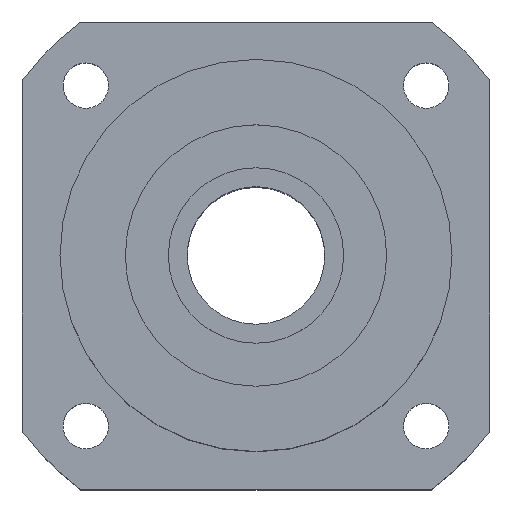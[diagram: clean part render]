
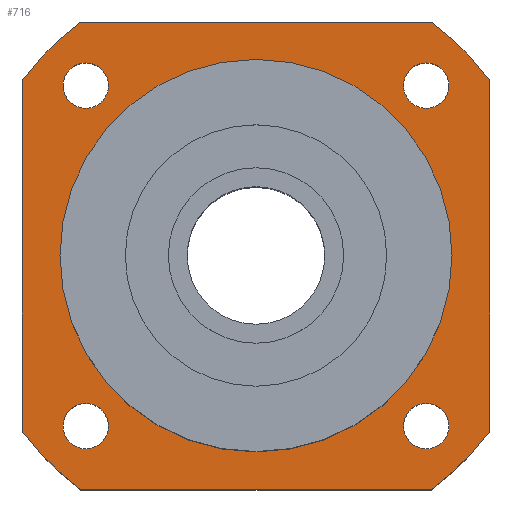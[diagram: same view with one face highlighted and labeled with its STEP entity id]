
A CAD part, top view. The second image highlights one B-rep face of the part: STEP entity #716.
In plain terms, the highlighted planar face has unit normal (0, 0, 1).
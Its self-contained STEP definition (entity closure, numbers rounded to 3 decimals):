
#35=LINE($,#1340,#67);
#38=LINE($,#1348,#70);
#41=LINE($,#1356,#73);
#44=LINE($,#1363,#76);
#67=VECTOR($,#1000,51.);
#70=VECTOR($,#1009,51.);
#73=VECTOR($,#1018,51.);
#76=VECTOR($,#1027,51.);
#190=FACE_BOUND($,#278,.T.);
#191=FACE_BOUND($,#279,.T.);
#192=FACE_BOUND($,#280,.T.);
#193=FACE_BOUND($,#281,.T.);
#194=FACE_BOUND($,#282,.T.);
#195=FACE_BOUND($,#283,.T.);
#278=EDGE_LOOP($,(#637));
#279=EDGE_LOOP($,(#638));
#280=EDGE_LOOP($,(#639));
#281=EDGE_LOOP($,(#640));
#282=EDGE_LOOP($,(#641));
#283=EDGE_LOOP($,(#642,#643,#644,#645,#646,#647,#648,#649));
#320=CIRCLE($,#788,3.3);
#321=CIRCLE($,#790,3.3);
#322=CIRCLE($,#792,3.3);
#323=CIRCLE($,#794,3.3);
#325=CIRCLE($,#797,28.5);
#326=CIRCLE($,#800,42.5);
#327=CIRCLE($,#803,42.5);
#328=CIRCLE($,#806,42.5);
#329=CIRCLE($,#809,42.5);
#384=VERTEX_POINT($,#1315);
#385=VERTEX_POINT($,#1318);
#386=VERTEX_POINT($,#1321);
#387=VERTEX_POINT($,#1324);
#389=VERTEX_POINT($,#1329);
#390=VERTEX_POINT($,#1333);
#391=VERTEX_POINT($,#1335);
#392=VERTEX_POINT($,#1339);
#393=VERTEX_POINT($,#1343);
#394=VERTEX_POINT($,#1347);
#395=VERTEX_POINT($,#1351);
#396=VERTEX_POINT($,#1355);
#397=VERTEX_POINT($,#1359);
#460=EDGE_CURVE($,#384,#384,#320,.T.);
#461=EDGE_CURVE($,#385,#385,#321,.T.);
#462=EDGE_CURVE($,#386,#386,#322,.T.);
#463=EDGE_CURVE($,#387,#387,#323,.T.);
#465=EDGE_CURVE($,#389,#389,#325,.T.);
#467=EDGE_CURVE($,#391,#390,#326,.T.);
#469=EDGE_CURVE($,#392,#391,#35,.T.);
#471=EDGE_CURVE($,#393,#392,#327,.T.);
#473=EDGE_CURVE($,#394,#393,#38,.T.);
#475=EDGE_CURVE($,#395,#394,#328,.T.);
#477=EDGE_CURVE($,#396,#395,#41,.T.);
#479=EDGE_CURVE($,#397,#396,#329,.T.);
#481=EDGE_CURVE($,#390,#397,#44,.T.);
#637=ORIENTED_EDGE($,*,*,#460,.T.);
#638=ORIENTED_EDGE($,*,*,#461,.T.);
#639=ORIENTED_EDGE($,*,*,#462,.T.);
#640=ORIENTED_EDGE($,*,*,#463,.T.);
#641=ORIENTED_EDGE($,*,*,#465,.T.);
#642=ORIENTED_EDGE($,*,*,#481,.T.);
#643=ORIENTED_EDGE($,*,*,#479,.T.);
#644=ORIENTED_EDGE($,*,*,#477,.T.);
#645=ORIENTED_EDGE($,*,*,#475,.T.);
#646=ORIENTED_EDGE($,*,*,#473,.T.);
#647=ORIENTED_EDGE($,*,*,#471,.T.);
#648=ORIENTED_EDGE($,*,*,#469,.T.);
#649=ORIENTED_EDGE($,*,*,#467,.T.);
#670=PLANE($,#811);
#716=ADVANCED_FACE($,(#190,#191,#192,#193,#194,#195),#670,.T.);
#788=AXIS2_PLACEMENT_3D($,#1316,#970,#971);
#790=AXIS2_PLACEMENT_3D($,#1319,#974,#975);
#792=AXIS2_PLACEMENT_3D($,#1322,#978,#979);
#794=AXIS2_PLACEMENT_3D($,#1325,#982,#983);
#797=AXIS2_PLACEMENT_3D($,#1330,#988,#989);
#800=AXIS2_PLACEMENT_3D($,#1336,#995,#996);
#803=AXIS2_PLACEMENT_3D($,#1344,#1004,#1005);
#806=AXIS2_PLACEMENT_3D($,#1352,#1013,#1014);
#809=AXIS2_PLACEMENT_3D($,#1360,#1022,#1023);
#811=AXIS2_PLACEMENT_3D($,#1364,#1028,#1029);
#970=DIRECTION('center_axis',(0.,0.,-1.));
#971=DIRECTION('ref_axis',(-1.,0.,0.));
#974=DIRECTION('center_axis',(0.,0.,-1.));
#975=DIRECTION('ref_axis',(-1.,0.,0.));
#978=DIRECTION('center_axis',(0.,0.,-1.));
#979=DIRECTION('ref_axis',(-1.,0.,0.));
#982=DIRECTION('center_axis',(0.,0.,-1.));
#983=DIRECTION('ref_axis',(-1.,0.,0.));
#988=DIRECTION('center_axis',(0.,0.,-1.));
#989=DIRECTION('ref_axis',(-1.,0.,0.));
#995=DIRECTION('center_axis',(0.,0.,1.));
#996=DIRECTION('ref_axis',(-0.8,-0.6,0.));
#1000=DIRECTION($,(0.,1.,0.));
#1004=DIRECTION('center_axis',(0.,0.,1.));
#1005=DIRECTION('ref_axis',(-0.6,0.8,0.));
#1009=DIRECTION($,(1.,0.,0.));
#1013=DIRECTION('center_axis',(0.,0.,1.));
#1014=DIRECTION('ref_axis',(0.8,0.6,0.));
#1018=DIRECTION($,(0.,-1.,0.));
#1022=DIRECTION('center_axis',(0.,0.,1.));
#1023=DIRECTION('ref_axis',(0.6,-0.8,0.));
#1027=DIRECTION($,(-1.,0.,0.));
#1028=DIRECTION('center_axis',(0.,0.,1.));
#1029=DIRECTION('ref_axis',(1.,0.,0.));
#1315=CARTESIAN_POINT('',(-21.449,-24.749,12.));
#1316=CARTESIAN_POINT('Origin',(-24.749,-24.749,12.));
#1318=CARTESIAN_POINT('',(28.049,24.749,12.));
#1319=CARTESIAN_POINT('Origin',(24.749,24.749,12.));
#1321=CARTESIAN_POINT('',(28.049,-24.749,12.));
#1322=CARTESIAN_POINT('Origin',(24.749,-24.749,12.));
#1324=CARTESIAN_POINT('',(-21.449,24.749,12.));
#1325=CARTESIAN_POINT('Origin',(-24.749,24.749,12.));
#1329=CARTESIAN_POINT('',(28.5,0.,12.));
#1330=CARTESIAN_POINT('Origin',(0.,0.,12.));
#1333=CARTESIAN_POINT('',(25.5,34.,12.));
#1335=CARTESIAN_POINT('',(34.,25.5,12.));
#1336=CARTESIAN_POINT('Origin',(0.,0.,12.));
#1339=CARTESIAN_POINT('',(34.,-25.5,12.));
#1340=CARTESIAN_POINT($,(34.,25.5,12.));
#1343=CARTESIAN_POINT('',(25.5,-34.,12.));
#1344=CARTESIAN_POINT('Origin',(0.,0.,12.));
#1347=CARTESIAN_POINT('',(-25.5,-34.,12.));
#1348=CARTESIAN_POINT($,(25.5,-34.,12.));
#1351=CARTESIAN_POINT('',(-34.,-25.5,12.));
#1352=CARTESIAN_POINT('Origin',(0.,0.,12.));
#1355=CARTESIAN_POINT('',(-34.,25.5,12.));
#1356=CARTESIAN_POINT($,(-34.,-25.5,12.));
#1359=CARTESIAN_POINT('',(-25.5,34.,12.));
#1360=CARTESIAN_POINT('Origin',(0.,0.,12.));
#1363=CARTESIAN_POINT($,(-25.5,34.,12.));
#1364=CARTESIAN_POINT('Origin',(0.,0.,
12.));
